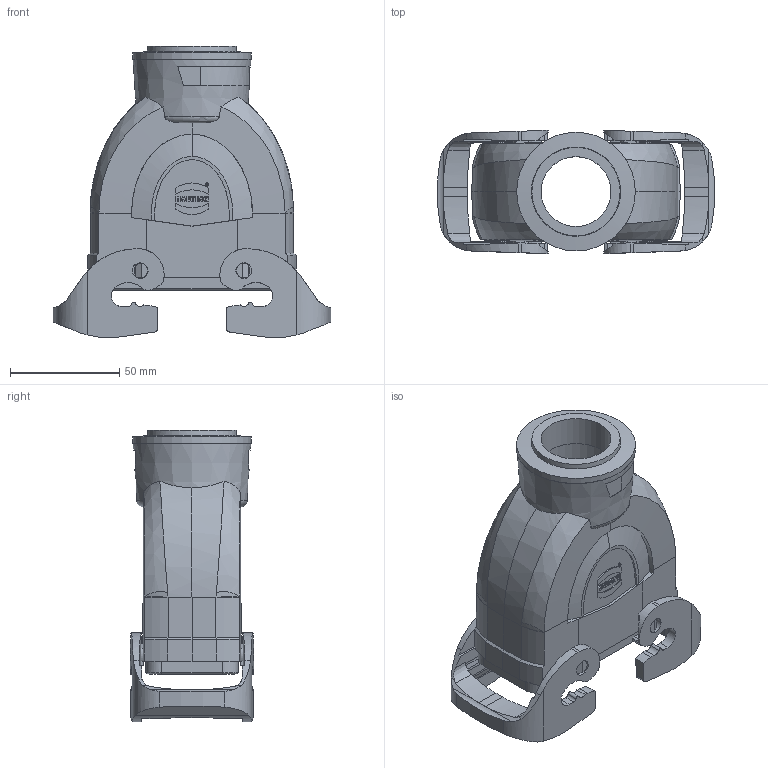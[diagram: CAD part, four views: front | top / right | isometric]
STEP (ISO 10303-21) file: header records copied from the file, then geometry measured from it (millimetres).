
FILE_DESCRIPTION(/* description */ (''),/* implementation_level */ '2;1');
FILE_NAME(/* name */ '100779359ugm000_c.stp',/* time_stamp */ '2022-03-12T08:02:51+01:00',/* author */ (''),/* organization */ (''),/* preprocessor_version */ 'ST-DEVELOPER v16.7',/* originating_system */ 'SIEMENS PLM Software NX 1911',/* authorisation */ '');
FILE_SCHEMA (('AUTOMOTIVE_DESIGN { 1 0 10303 214 3 1 1 1 }'));
Length unit declared in the file: millimetre
Products named in the file (1): 100779359ugm000_c
Bounding box: 127.17 x 56.57 x 133.59 mm (x, y, z)
Volume: 146139.3 mm3; surface area: 74438.8 mm2
Topology: 3 solids, 3 shells, 684 faces, 1973 edges, 1306 vertices
Faces by surface type: plane 387, cylinder 194, bspline 46, cone 39, extrusion 12, torus 6
Full cylindrical faces by diameter (mm): 1.006 x1, 1.477 x1, 3 x4, 3.4 x4, 3.5 x4, 7.2 x4, 32 x1, 38 x1, 54.4 x1
Entity records: 29897 total; most frequent: CARTESIAN_POINT 7749, ORIENTED_EDGE 3810, DIRECTION 3410, EDGE_CURVE 1905, VERTEX_POINT 1276, AXIS2_PLACEMENT_3D 1137, VECTOR 1136, LINE 1124
